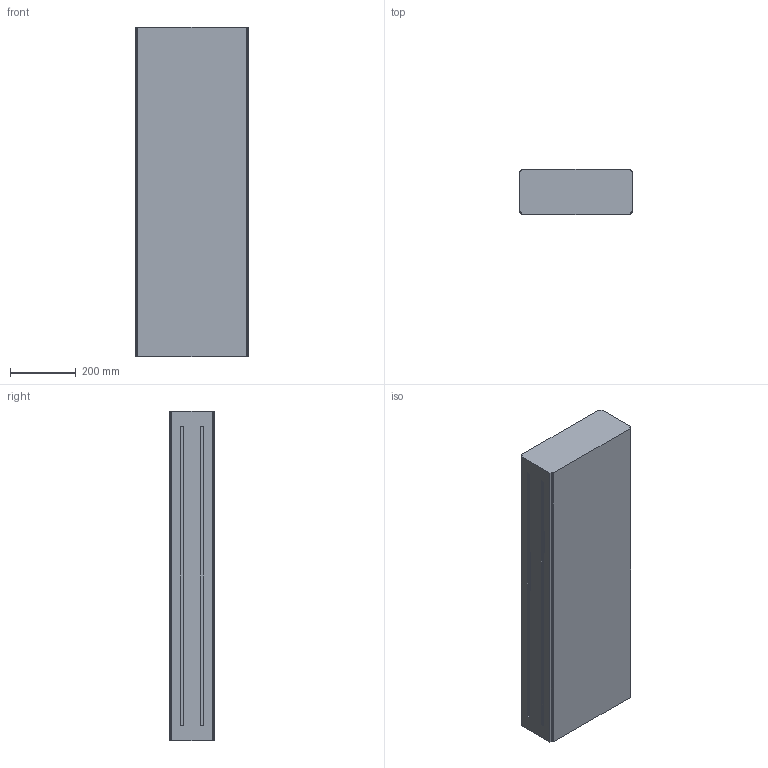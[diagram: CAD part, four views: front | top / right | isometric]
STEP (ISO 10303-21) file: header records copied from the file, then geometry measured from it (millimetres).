
FILE_DESCRIPTION (( 'STEP AP214' ), '1' );
FILE_NAME ('FS-MTC2-150-INOX Baansectie (niet gebruiken).350.STEP', '2017-02-08T12:43:28', ( '' ), ( '' ), 'SwSTEP 2.0', 'SolidWorks 2016', '' );
FILE_SCHEMA (( 'AUTOMOTIVE_DESIGN' ));
Length unit declared in the file: millimetre
Products named in the file (1): FS-MTC2-150-INOX Baansectie (niet gebruiken).350
Bounding box: 346 x 136.5 x 1000 mm (x, y, z)
Volume: 46935522.5 mm3; surface area: 1077381.2 mm2
Topology: 1 solids, 1 shells, 42 faces, 108 edges, 72 vertices
Faces by surface type: plane 42
Entity records: 1286 total; most frequent: CARTESIAN_POINT 223, ORIENTED_EDGE 216, DIRECTION 194, EDGE_CURVE 108, LINE 108, VECTOR 108, VERTEX_POINT 72, EDGE_LOOP 46
